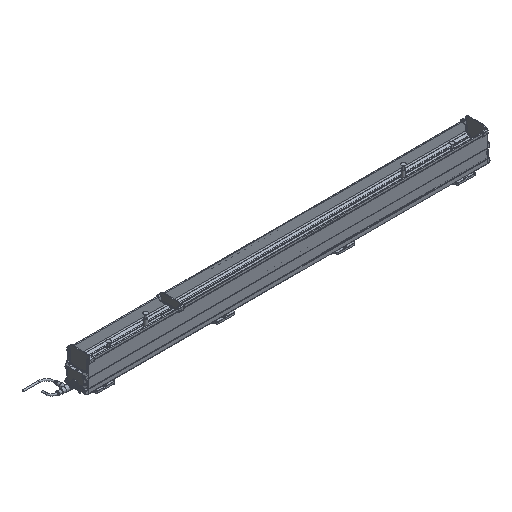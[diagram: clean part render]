
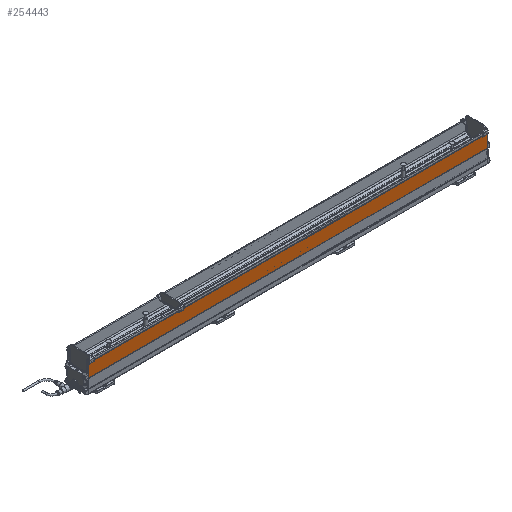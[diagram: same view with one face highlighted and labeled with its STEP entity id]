
A CAD part, isometric view. The second image highlights one B-rep face of the part: STEP entity #254443.
In plain terms, the highlighted planar face has unit normal (0, -1, 0) as drawn and (0, 1, 0) by its records, which use the part's own axes.
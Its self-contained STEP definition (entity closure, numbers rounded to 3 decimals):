
#89379=ORIENTED_EDGE('',*,*,#127226,.F.);
#89380=ORIENTED_EDGE('',*,*,#127191,.F.);
#89381=ORIENTED_EDGE('',*,*,#127225,.F.);
#89382=ORIENTED_EDGE('',*,*,#127130,.F.);
#109217=VECTOR('',#146755,1.);
#109244=VECTOR('',#146856,1.);
#109274=VECTOR('',#146950,1.);
#109275=VECTOR('',#146953,1.);
#114924=LINE('',#167367,#109217);
#114951=LINE('',#167490,#109244);
#114981=LINE('',#167556,#109274);
#114982=LINE('',#167558,#109275);
#120642=VERTEX_POINT('',#167364);
#120643=VERTEX_POINT('',#167366);
#120701=VERTEX_POINT('',#167487);
#120702=VERTEX_POINT('',#167489);
#127130=EDGE_CURVE('',#120642,#120643,#114924,.T.);
#127191=EDGE_CURVE('',#120701,#120702,#114951,.T.);
#127225=EDGE_CURVE('',#120643,#120701,#114981,.T.);
#127226=EDGE_CURVE('',#120702,#120642,#114982,.T.);
#137176=EDGE_LOOP('',(#89379,#89380,#89381,#89382));
#141866=FACE_BOUND('',#137176,.T.);
#146755=DIRECTION('',(36.287,0.,0.));
#146856=DIRECTION('',(-36.287,0.,0.));
#146950=DIRECTION('',(0.,0.,1160.));
#146951=DIRECTION('',(0.,1.,0.));
#146952=DIRECTION('',(1.,0.,0.));
#146953=DIRECTION('',(0.,0.,-1160.));
#167364=CARTESIAN_POINT('',(-29.322,15.,-1035.));
#167366=CARTESIAN_POINT('',(6.965,15.,-1035.));
#167367=CARTESIAN_POINT('',(-29.322,15.,-1035.));
#167487=CARTESIAN_POINT('',(6.965,15.,125.));
#167489=CARTESIAN_POINT('',(-29.322,15.,125.));
#167490=CARTESIAN_POINT('',(6.965,15.,125.));
#167556=CARTESIAN_POINT('',(6.965,15.,-1035.));
#167557=CARTESIAN_POINT('',(-29.322,15.,125.));
#167558=CARTESIAN_POINT('',(-29.322,15.,125.));
#245261=AXIS2_PLACEMENT_3D('',#167557,#146951,#146952);
#252593=PLANE('',#245261);
#254443=ADVANCED_FACE('',(#141866),#252593,.T.);
